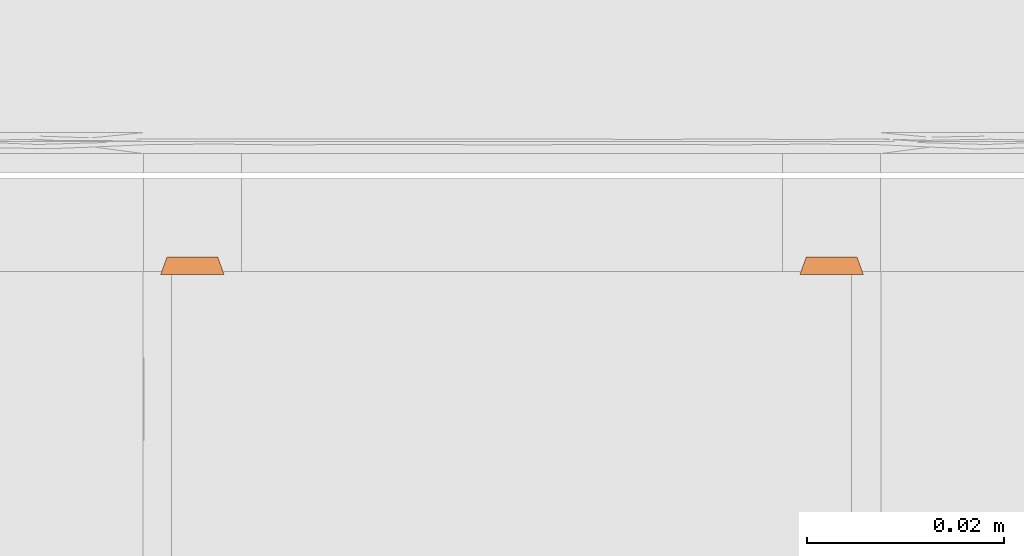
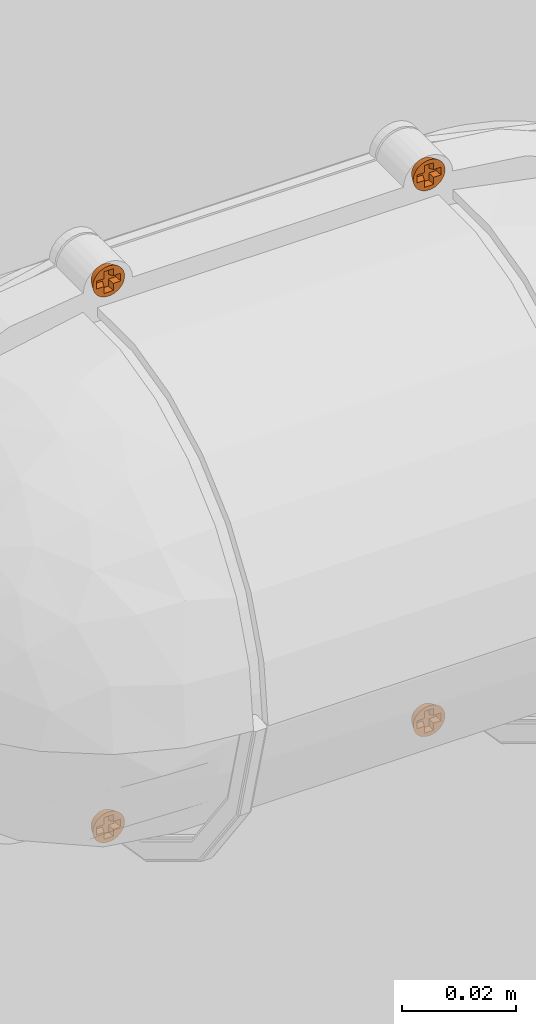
# One storey, part 2 of 2: 4 proxies.
"""IFC2X3 building model written with IfcOpenShell, lengths in metres."""

from ifc_helpers import new_model, si_unit, direction, frame, origin, place, context, subcontext, project, spatial, faceted_brep, source, transform, mapped, material, type_object, type_shapes, element, save


model = new_model("IFC2X3")

# Units and contexts
model_context = context("Model", 3, precision=1e-05, world=origin(), true_north=direction((6.123233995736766e-17, 1.0)))
body_context = subcontext(model_context, "Body", "Model", "MODEL_VIEW")
ifc_project = project(units=[si_unit("LENGTHUNIT", "METRE"), si_unit("AREAUNIT", "SQUARE_METRE")], contexts=[model_context])

# Site, building, storey
site_placement = place(None, origin())
site = spatial("IfcSite", under=ifc_project, at=site_placement, Name="Default", CompositionType="ELEMENT")
building_placement = place(site_placement, origin())
building = spatial("IfcBuilding", under=site, at=building_placement, CompositionType="ELEMENT")
storey_placement = place(building_placement, origin())
storey = spatial("IfcBuildingStorey", under=building, at=storey_placement, Name="Level 1", CompositionType="ELEMENT", Elevation=0.0)

# Proxies
ifc_material = material(Name="Raw Brass")
building_element_proxy_type_1 = type_object("IfcBuildingElementProxyType", Name="Screw:Screw", PredefinedType="NOTDEFINED", material=ifc_material)
shared_shape_1 = source(origin(), body_context, "Body", "Brep", [
    faceted_brep([(-0.003171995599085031, 0.0006309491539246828, 0.000316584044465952), (-0.0024394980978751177, 0.0008394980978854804, 0.0003165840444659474), (-0.0029879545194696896, 0.0012376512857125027, 0.0003165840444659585), (-0.0024394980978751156, 0.0, 0.0003165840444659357), (-0.0032341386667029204, 0.0, 0.00031658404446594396), (-0.0031719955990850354, -0.0006309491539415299, 0.00031658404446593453), (-0.0024394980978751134, -0.0008394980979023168, 0.0003165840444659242), (-0.002987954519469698, -0.00123765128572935, 0.00031658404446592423), (-0.0026890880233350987, -0.0017967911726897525, 0.00031658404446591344), (-0.0022868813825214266, -0.0022868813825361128, 0.00031658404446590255), (-0.000939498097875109, -0.0008394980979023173, 0.0003165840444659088), (-0.0009394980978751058, -0.0023394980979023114, 0.000316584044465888), (-0.0017967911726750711, -0.002689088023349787, 0.000316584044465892), (-0.001237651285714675, -0.0029879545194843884, 0.00031658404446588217), (-0.0006309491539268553, -0.003171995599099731, 0.00031658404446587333), (0.0, -0.0032341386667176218, 0.000316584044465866), (0.0009394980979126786, -0.002339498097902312, 0.0003165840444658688), (0.0006309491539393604, -0.003171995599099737, 0.0003165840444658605), (0.0012376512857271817, -0.0029879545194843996, 0.00031658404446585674), (0.001796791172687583, -0.0026890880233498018, 0.00031658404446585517), (0.0022868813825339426, -0.0022868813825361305, 0.0003165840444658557), (0.0009394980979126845, -0.0008394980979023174, 0.00031658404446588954), (0.0024415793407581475, -0.0008394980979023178, 0.00031658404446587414), (0.0026890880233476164, -0.0017967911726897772, 0.00031658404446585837), (0.002987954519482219, -0.0012376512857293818, 0.00031658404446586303), (0.0031719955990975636, -0.0006309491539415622, 0.00031658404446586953), (0.0024415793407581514, 0.0, 0.0003165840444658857), (0.0032341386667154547, 0.0, 0.00031658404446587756), (0.0031719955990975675, 0.0006309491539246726, 0.000316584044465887), (0.002441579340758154, 0.0008394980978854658, 0.00031658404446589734), (0.002987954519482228, 0.0012376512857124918, 0.0003165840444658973), (0.002689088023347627, 0.0017967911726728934, 0.000316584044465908), (0.002286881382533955, 0.00228688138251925, 0.000316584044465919), (0.0009394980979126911, 0.0008394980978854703, 0.00031658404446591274), (0.000939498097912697, 0.002325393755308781, 0.0003165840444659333), (0.0017967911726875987, 0.002689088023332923, 0.00031658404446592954), (0.0012376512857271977, 0.0029879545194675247, 0.00031658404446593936), (0.0006309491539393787, 0.0031719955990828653, 0.0003165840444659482), (0.0, 0.0032341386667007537, 0.0003165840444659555), (-0.0009394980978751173, 0.0023253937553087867, 0.00031658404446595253), (-0.0006309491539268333, 0.003171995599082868, 0.00031658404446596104), (-0.0012376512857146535, 0.002987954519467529, 0.0003165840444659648), (-0.0017967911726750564, 0.0026890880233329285, 0.00031658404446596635), (-0.0022868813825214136, 0.0022868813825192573, 0.0003165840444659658), (-0.0009394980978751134, 0.0008394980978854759, 0.000316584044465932), (-0.0026890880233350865, 0.0017967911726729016, 0.00031658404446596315), (0.0, 0.0, -0.001499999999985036), (-0.002572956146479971, 0.0, -0.0014999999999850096), (-0.0025235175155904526, 0.0005019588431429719, -0.0014999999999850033), (-0.002377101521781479, 0.0009846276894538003, -0.001499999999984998), (-0.0021393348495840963, 0.0014294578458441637, -0.0014999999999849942), (-0.0018193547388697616, 0.0018193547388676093, -0.0014999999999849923), (-0.0014294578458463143, 0.0021393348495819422, -0.0014999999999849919), (-0.0009846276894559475, 0.002377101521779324, -0.001499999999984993), (-0.0005019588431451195, 0.0025235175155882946, -0.0014999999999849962), (0.0, 0.002572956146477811, -0.0014999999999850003), (0.0005019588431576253, 0.0025235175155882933, -0.0014999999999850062), (0.0009846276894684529, 0.0023771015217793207, -0.0014999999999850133), (0.0014294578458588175, 0.002139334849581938, -0.0014999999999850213), (0.0018193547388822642, 0.0018193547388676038, -0.0014999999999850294), (0.0021393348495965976, 0.001429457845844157, -0.0014999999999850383), (0.00237710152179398, 0.0009846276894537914, -0.001499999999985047), (0.0025235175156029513, 0.0005019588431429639, -0.0014999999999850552), (0.0025729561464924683, 0.0, -0.0014999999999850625), (-0.0025235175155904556, -0.0005019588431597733, -0.001499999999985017), (-0.002377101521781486, -0.0009846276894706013, -0.0014999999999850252), (-0.0021393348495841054, -0.0014294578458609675, -0.001499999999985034), (-0.0018193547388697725, -0.0018193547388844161, -0.0014999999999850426), (-0.001429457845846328, -0.002139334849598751, -0.0014999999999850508), (-0.0009846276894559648, -0.002377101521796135, -0.0014999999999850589), (-0.0005019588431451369, -0.0025235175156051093, -0.001499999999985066), (0.0, -0.002572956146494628, -0.0014999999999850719), (0.002523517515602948, -0.0005019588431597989, -0.0014999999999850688), (0.002377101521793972, -0.0009846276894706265, -0.0014999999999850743), (0.002139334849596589, -0.0014294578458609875, -0.001499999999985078), (0.0018193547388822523, -0.001819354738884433, -0.0014999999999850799), (0.0014294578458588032, -0.0021393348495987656, -0.0014999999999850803), (0.0009846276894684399, -0.002377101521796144, -0.0014999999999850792), (0.0005019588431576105, -0.002523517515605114, -0.001499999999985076), (-0.0005999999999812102, -0.0005000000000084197, -0.0008462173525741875), (-0.0005999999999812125, -0.00200000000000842, -0.0008462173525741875), (0.0006000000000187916, -0.002000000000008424, -0.0008462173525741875), (0.0006000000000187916, -0.0005000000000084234, -0.0008462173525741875), (0.002102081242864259, -0.0005000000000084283, -0.0008462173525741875), (0.002102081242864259, 0.0004999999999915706, -0.0008462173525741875), (0.0006000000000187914, 0.0004999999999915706, -0.0008462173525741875), (0.0006000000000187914, 0.001985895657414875, -0.0008462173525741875), (-0.0005999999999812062, 0.001985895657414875, -0.0008462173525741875), (-0.0005999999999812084, 0.0004999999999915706, -0.0008462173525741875), (-0.0020999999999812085, 0.0004999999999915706, -0.0008462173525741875), (-0.00209999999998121, -0.0005000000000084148, -0.0008462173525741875)], [[[0, 1, 2]], [[3, 1, 0]], [[3, 0, 4]], [[3, 4, 5]], [[6, 3, 5]], [[6, 5, 7]], [[6, 7, 8]], [[9, 6, 8]], [[9, 10, 6]], [[10, 9, 11]], [[11, 9, 12]], [[13, 11, 12]], [[13, 14, 11]], [[11, 14, 15]], [[16, 11, 15]], [[15, 17, 16]], [[16, 17, 18]], [[19, 16, 18]], [[19, 20, 16]], [[16, 20, 21]], [[21, 20, 22]], [[20, 23, 22]], [[22, 23, 24]], [[24, 25, 22]], [[26, 22, 25]], [[27, 26, 25]], [[28, 26, 27]], [[29, 26, 28]], [[29, 28, 30]], [[31, 29, 30]], [[29, 31, 32]], [[32, 33, 29]], [[33, 32, 34]], [[32, 35, 34]], [[36, 34, 35]], [[37, 34, 36]], [[38, 34, 37]], [[38, 39, 34]], [[38, 40, 39]], [[41, 39, 40]], [[39, 41, 42]], [[43, 39, 42]], [[43, 1, 44]], [[43, 45, 1]], [[44, 39, 43]], [[2, 1, 45]], [[46, 47, 48]], [[48, 49, 46]], [[50, 46, 49]], [[51, 46, 50]], [[46, 51, 52]], [[52, 53, 46]], [[53, 54, 46]], [[54, 55, 46]], [[55, 56, 46]], [[57, 46, 56]], [[46, 57, 58]], [[58, 59, 46]], [[60, 46, 59]], [[61, 46, 60]], [[62, 46, 61]], [[62, 63, 46]], [[46, 64, 47]], [[46, 65, 64]], [[65, 46, 66]], [[67, 66, 46]], [[67, 46, 68]], [[69, 68, 46]], [[46, 70, 69]], [[46, 71, 70]], [[46, 63, 72]], [[73, 46, 72]], [[73, 74, 46]], [[75, 46, 74]], [[76, 46, 75]], [[46, 76, 77]], [[77, 78, 46]], [[71, 46, 78]], [[62, 28, 27, 63]], [[28, 62, 61, 30]], [[61, 60, 31, 30]], [[32, 59, 58, 35]], [[58, 57, 36, 35]], [[60, 59, 32, 31]], [[57, 56, 37, 36]], [[37, 56, 55, 38]], [[53, 41, 40, 54]], [[41, 53, 52, 42]], [[52, 51, 43, 42]], [[45, 50, 49, 2]], [[49, 48, 0, 2]], [[51, 50, 45, 43]], [[48, 47, 4, 0]], [[40, 38, 55, 54]], [[64, 5, 4, 47]], [[5, 64, 65, 7]], [[65, 66, 8, 7]], [[9, 67, 68, 12]], [[68, 69, 13, 12]], [[66, 67, 9, 8]], [[69, 70, 14, 13]], [[14, 70, 71, 15]], [[77, 18, 17, 78]], [[18, 77, 76, 19]], [[76, 75, 20, 19]], [[23, 74, 73, 24]], [[73, 72, 25, 24]], [[75, 74, 23, 20]], [[72, 63, 27, 25]], [[17, 15, 71, 78]], [[79, 80, 81, 82, 83, 84, 85, 86, 87, 88, 89, 90]], [[87, 86, 34, 39]], [[44, 88, 87, 39]], [[80, 79, 10, 11]], [[89, 88, 44, 1]], [[33, 85, 84, 29]], [[3, 6, 90, 89, 1]], [[10, 79, 90, 6]], [[83, 82, 21, 22]], [[16, 81, 80, 11]], [[21, 82, 81, 16]], [[86, 85, 33, 34]], [[26, 29, 84, 83, 22]]]),
])
type_shapes(building_element_proxy_type_1, [shared_shape_1])
for number, where, z_axis, x_axis, name in (
    (1, (-5.440492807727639, 1.4919733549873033, 2.0410738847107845), (0.0, -1.0, 0.0), (1.0, 0.0, 0.0), "Screw:Screw"),
    (2, (-5.375443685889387, 1.491973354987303, 1.9239261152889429), (0.0, -1.0, 0.0), (-1.0, 0.0, 0.0), "Screw:Screw"),
):
    element("IfcBuildingElementProxy", number, at=place(storey_placement, frame(where, z_axis=z_axis, x_axis=x_axis)), inside=storey, type_object=building_element_proxy_type_1, material=ifc_material, Name=name, ObjectType="Screw:Screw", context=body_context, shape_type="MappedRepresentation", body=[
        mapped(shared_shape_1, transform((0.0, 0.0, 0.0), scale=1.0)),
    ])
building_element_proxy_type_2 = type_object("IfcBuildingElementProxyType", Name="Screw:Screw", PredefinedType="NOTDEFINED", material=ifc_material)
shared_shape_2 = source(origin(), body_context, "Body", "Brep", [
    faceted_brep([(-0.0029879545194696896, -0.0012376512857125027, 0.0003165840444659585), (-0.0024394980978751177, -0.0008394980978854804, 0.0003165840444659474), (-0.003171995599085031, -0.0006309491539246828, 0.000316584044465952), (-0.0026890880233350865, -0.0017967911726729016, 0.00031658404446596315), (-0.0022868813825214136, -0.0022868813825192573, 0.0003165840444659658), (-0.0009394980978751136, -0.0008394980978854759, 0.000316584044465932), (-0.0009394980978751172, -0.0023253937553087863, 0.00031658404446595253), (-0.0017967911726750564, -0.0026890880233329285, 0.00031658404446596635), (-0.001237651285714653, -0.0029879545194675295, 0.0003165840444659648), (-0.0006309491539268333, -0.003171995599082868, 0.00031658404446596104), (0.0, -0.0032341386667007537, 0.0003165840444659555), (0.0009394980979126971, -0.002325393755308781, 0.0003165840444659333), (0.0006309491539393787, -0.0031719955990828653, 0.0003165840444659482), (0.0012376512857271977, -0.0029879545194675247, 0.00031658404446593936), (0.0017967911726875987, -0.002689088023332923, 0.00031658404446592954), (0.002286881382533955, -0.00228688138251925, 0.000316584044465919), (0.0009394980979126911, -0.0008394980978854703, 0.00031658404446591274), (0.0024415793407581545, -0.0008394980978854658, 0.00031658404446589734), (0.002689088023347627, -0.0017967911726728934, 0.000316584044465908), (0.002987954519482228, -0.0012376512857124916, 0.0003165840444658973), (0.0031719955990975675, -0.0006309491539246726, 0.000316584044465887), (0.0024415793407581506, 0.0, 0.0003165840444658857), (0.0032341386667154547, 0.0, 0.00031658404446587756), (0.0031719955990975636, 0.0006309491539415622, 0.00031658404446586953), (0.0024415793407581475, 0.0008394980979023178, 0.00031658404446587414), (0.002987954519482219, 0.0012376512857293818, 0.00031658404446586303), (0.0026890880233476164, 0.0017967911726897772, 0.00031658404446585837), (0.0022868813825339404, 0.0022868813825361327, 0.0003165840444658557), (0.0009394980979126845, 0.0008394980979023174, 0.00031658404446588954), (0.0009394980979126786, 0.0023394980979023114, 0.0003165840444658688), (0.0017967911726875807, 0.002689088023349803, 0.00031658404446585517), (0.0012376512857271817, 0.0029879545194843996, 0.00031658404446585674), (0.0006309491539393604, 0.003171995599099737, 0.0003165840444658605), (0.0, 0.0032341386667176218, 0.000316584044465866), (-0.0009394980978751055, 0.0023394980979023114, 0.000316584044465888), (-0.0006309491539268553, 0.003171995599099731, 0.00031658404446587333), (-0.001237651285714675, 0.0029879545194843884, 0.00031658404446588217), (-0.0017967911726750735, 0.002689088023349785, 0.000316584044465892), (-0.0022868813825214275, 0.0022868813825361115, 0.00031658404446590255), (-0.0009394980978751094, 0.0008394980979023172, 0.0003165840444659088), (-0.0024394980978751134, 0.0008394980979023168, 0.0003165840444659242), (-0.0026890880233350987, 0.0017967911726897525, 0.00031658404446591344), (-0.002987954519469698, 0.00123765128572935, 0.00031658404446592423), (-0.0031719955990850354, 0.0006309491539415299, 0.00031658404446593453), (-0.002439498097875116, 0.0, 0.0003165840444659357), (-0.0032341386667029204, 0.0, 0.00031658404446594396), (-0.0025235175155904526, -0.0005019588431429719, -0.0014999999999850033), (-0.002572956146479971, 0.0, -0.0014999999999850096), (0.0, 0.0, -0.001499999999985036), (-0.002377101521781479, -0.0009846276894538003, -0.001499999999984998), (-0.0025235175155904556, 0.0005019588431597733, -0.001499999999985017), (-0.002377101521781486, 0.0009846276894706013, -0.0014999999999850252), (-0.0021393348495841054, 0.0014294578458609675, -0.001499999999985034), (-0.0018193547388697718, 0.0018193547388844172, -0.0014999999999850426), (-0.0014294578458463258, 0.002139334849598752, -0.0014999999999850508), (-0.0009846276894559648, 0.002377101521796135, -0.0014999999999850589), (-0.0005019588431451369, 0.0025235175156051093, -0.001499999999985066), (0.0, 0.002572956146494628, -0.0014999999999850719), (0.0005019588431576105, 0.002523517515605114, -0.001499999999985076), (0.0009846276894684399, 0.002377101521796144, -0.0014999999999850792), (0.001429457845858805, 0.0021393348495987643, -0.0014999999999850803), (0.0018193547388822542, 0.0018193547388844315, -0.0014999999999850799), (0.002139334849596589, 0.0014294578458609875, -0.001499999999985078), (0.002377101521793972, 0.0009846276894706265, -0.0014999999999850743), (0.002523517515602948, 0.0005019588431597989, -0.0014999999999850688), (0.0025729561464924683, 0.0, -0.0014999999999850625), (0.0025235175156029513, -0.0005019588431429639, -0.0014999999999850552), (0.00237710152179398, -0.0009846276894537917, -0.001499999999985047), (0.0021393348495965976, -0.001429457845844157, -0.0014999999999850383), (0.0018193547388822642, -0.0018193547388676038, -0.0014999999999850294), (0.0014294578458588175, -0.002139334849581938, -0.0014999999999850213), (0.0009846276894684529, -0.0023771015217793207, -0.0014999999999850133), (0.0005019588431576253, -0.0025235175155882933, -0.0014999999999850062), (0.0, -0.002572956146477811, -0.0014999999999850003), (-0.0005019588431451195, -0.0025235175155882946, -0.0014999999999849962), (-0.000984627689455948, -0.002377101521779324, -0.001499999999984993), (-0.0014294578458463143, -0.0021393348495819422, -0.0014999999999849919), (-0.0018193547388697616, -0.0018193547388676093, -0.0014999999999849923), (-0.0021393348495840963, -0.0014294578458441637, -0.0014999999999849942), (0.0006000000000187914, 0.0005000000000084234, -0.0008462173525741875), (0.0006000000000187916, 0.002000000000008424, -0.0008462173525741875), (-0.0005999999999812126, 0.00200000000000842, -0.0008462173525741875), (-0.0005999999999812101, 0.0005000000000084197, -0.0008462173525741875), (-0.00209999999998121, 0.0005000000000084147, -0.0008462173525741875), (-0.0020999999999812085, -0.0004999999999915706, -0.0008462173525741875), (-0.0005999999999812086, -0.0004999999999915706, -0.0008462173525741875), (-0.0005999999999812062, -0.001985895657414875, -0.0008462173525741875), (0.0006000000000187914, -0.001985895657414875, -0.0008462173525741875), (0.0006000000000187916, -0.0004999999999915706, -0.0008462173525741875), (0.002102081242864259, -0.0004999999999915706, -0.0008462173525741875), (0.002102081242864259, 0.0005000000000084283, -0.0008462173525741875)], [[[0, 1, 2]], [[3, 1, 0]], [[1, 3, 4]], [[5, 1, 4]], [[4, 6, 5]], [[7, 6, 4]], [[7, 8, 6]], [[9, 6, 8]], [[6, 9, 10]], [[11, 6, 10]], [[12, 11, 10]], [[13, 11, 12]], [[14, 11, 13]], [[11, 14, 15]], [[11, 15, 16]], [[17, 16, 15]], [[15, 18, 17]], [[19, 17, 18]], [[19, 20, 17]], [[20, 21, 17]], [[22, 21, 20]], [[23, 21, 22]], [[23, 24, 21]], [[24, 23, 25]], [[25, 26, 24]], [[24, 26, 27]], [[24, 27, 28]], [[28, 27, 29]], [[29, 27, 30]], [[31, 29, 30]], [[31, 32, 29]], [[29, 32, 33]], [[33, 34, 29]], [[33, 35, 34]], [[34, 35, 36]], [[37, 34, 36]], [[37, 38, 34]], [[34, 38, 39]], [[40, 39, 38]], [[41, 40, 38]], [[41, 42, 40]], [[42, 43, 40]], [[43, 44, 40]], [[43, 45, 44]], [[45, 2, 44]], [[2, 1, 44]], [[46, 47, 48]], [[48, 49, 46]], [[47, 50, 48]], [[50, 51, 48]], [[52, 48, 51]], [[48, 52, 53]], [[54, 48, 53]], [[48, 54, 55]], [[55, 56, 48]], [[56, 57, 48]], [[58, 48, 57]], [[48, 58, 59]], [[59, 60, 48]], [[61, 48, 60]], [[62, 48, 61]], [[48, 62, 63]], [[64, 48, 63]], [[64, 65, 48]], [[48, 65, 66]], [[67, 48, 66]], [[68, 48, 67]], [[69, 48, 68]], [[48, 69, 70]], [[70, 71, 48]], [[72, 48, 71]], [[48, 72, 73]], [[48, 73, 74]], [[48, 74, 75]], [[48, 75, 76]], [[76, 77, 48]], [[78, 48, 77]], [[49, 48, 78]], [[65, 22, 20, 66]], [[67, 66, 20, 19]], [[19, 18, 68, 67]], [[70, 69, 15, 14]], [[14, 13, 71, 70]], [[18, 15, 69, 68]], [[13, 12, 72, 71]], [[10, 73, 72, 12]], [[74, 9, 8, 75]], [[76, 75, 8, 7]], [[7, 4, 77, 76]], [[49, 78, 3, 0]], [[0, 2, 46, 49]], [[4, 3, 78, 77]], [[2, 45, 47, 46]], [[74, 73, 10, 9]], [[47, 45, 43, 50]], [[51, 50, 43, 42]], [[42, 41, 52, 51]], [[54, 53, 38, 37]], [[37, 36, 55, 54]], [[41, 38, 53, 52]], [[36, 35, 56, 55]], [[33, 57, 56, 35]], [[58, 32, 31, 59]], [[60, 59, 31, 30]], [[30, 27, 61, 60]], [[63, 62, 26, 25]], [[25, 23, 64, 63]], [[27, 26, 62, 61]], [[23, 22, 65, 64]], [[58, 57, 33, 32]], [[79, 80, 81, 82, 83, 84, 85, 86, 87, 88, 89, 90]], [[11, 87, 86, 6]], [[6, 86, 85, 5]], [[39, 82, 81, 34]], [[5, 85, 84, 1]], [[17, 89, 88, 16]], [[1, 84, 83, 40, 44]], [[40, 83, 82, 39]], [[28, 79, 90, 24]], [[34, 81, 80, 29]], [[29, 80, 79, 28]], [[16, 88, 87, 11]], [[24, 90, 89, 17, 21]]]),
])
type_shapes(building_element_proxy_type_2, [shared_shape_2])
for number, where, z_axis, x_axis, name in (
    (3, (-5.375443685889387, 1.491973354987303, 2.0410738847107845), (0.0, -1.0, 0.0), (-1.0, 0.0, 0.0), "Screw:Screw"),
    (4, (-5.440492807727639, 1.4919733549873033, 1.9239261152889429), (0.0, -1.0, 0.0), (1.0, 0.0, 0.0), "Screw:Screw"),
):
    element("IfcBuildingElementProxy", number, at=place(storey_placement, frame(where, z_axis=z_axis, x_axis=x_axis)), inside=storey, type_object=building_element_proxy_type_2, material=ifc_material, Name=name, ObjectType="Screw:Screw", context=body_context, shape_type="MappedRepresentation", body=[
        mapped(shared_shape_2, transform((0.0, 0.0, 0.0), scale=1.0)),
    ])

save(model, "model.ifc")
